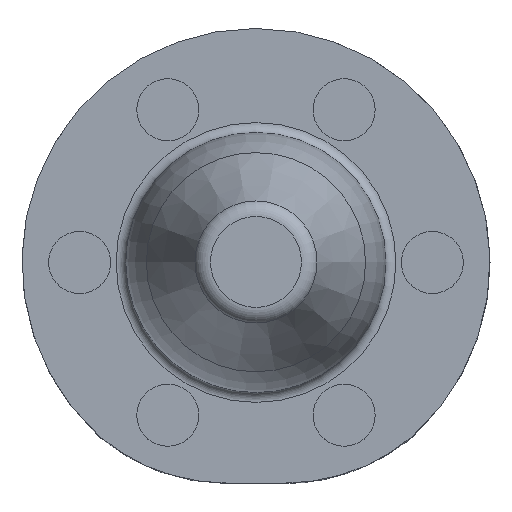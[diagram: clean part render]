
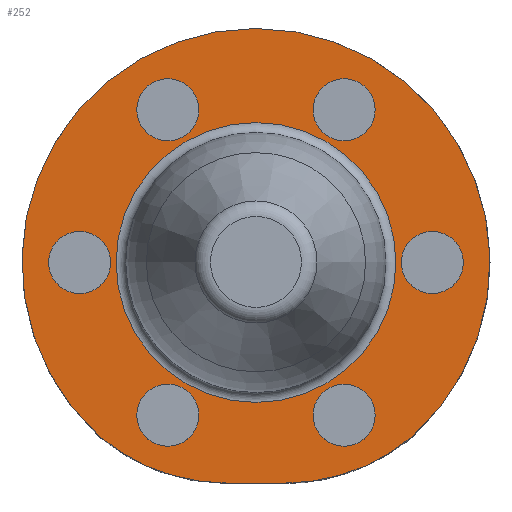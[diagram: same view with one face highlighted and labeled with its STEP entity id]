
A CAD part, top view. The second image highlights one B-rep face of the part: STEP entity #252.
In plain terms, the highlighted planar face has unit normal (0, 0, 1).
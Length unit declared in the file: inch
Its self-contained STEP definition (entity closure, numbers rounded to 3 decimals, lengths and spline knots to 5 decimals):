
#3 = EDGE_CURVE ( 'NONE', #422, #422, #642, .T. ) ;
#4 = ORIENTED_EDGE ( 'NONE', *, *, #107, .T. ) ;
#6 = AXIS2_PLACEMENT_3D ( 'NONE', #233, #23, #897 ) ;
#19 = ORIENTED_EDGE ( 'NONE', *, *, #213, .T. ) ;
#23 = DIRECTION ( 'NONE',  ( 0., 0., 1. ) ) ;
#33 = EDGE_LOOP ( 'NONE', ( #400 ) ) ;
#38 = EDGE_LOOP ( 'NONE', ( #892 ) ) ;
#45 = CARTESIAN_POINT ( 'NONE',  ( -0.23794, -0.26255, -0.015 ) ) ;
#47 = DIRECTION ( 'NONE',  ( 0.5, 0.866, 0. ) ) ;
#56 = VERTEX_POINT ( 'NONE', #194 ) ;
#73 = VERTEX_POINT ( 'NONE', #357 ) ;
#81 = AXIS2_PLACEMENT_3D ( 'NONE', #85, #449, #870 ) ;
#85 = CARTESIAN_POINT ( 'NONE',  ( -0.1335, 0.23123, -0.015 ) ) ;
#97 = FACE_BOUND ( 'NONE', #699, .T. ) ;
#101 = CIRCLE ( 'NONE', #81, 0.047 ) ;
#106 = DIRECTION ( 'NONE',  ( -1., 0., 0. ) ) ;
#107 = EDGE_CURVE ( 'NONE', #73, #73, #785, .T. ) ;
#109 = PLANE ( 'NONE',  #6 ) ;
#130 = DIRECTION ( 'NONE',  ( 0., 0., 1. ) ) ;
#136 = DIRECTION ( 'NONE',  ( 0., 0., 1. ) ) ;
#137 = DIRECTION ( 'NONE',  ( 0., 0., -1. ) ) ;
#140 = DIRECTION ( 'NONE',  ( 0.5, -0.866, 0. ) ) ;
#146 = CARTESIAN_POINT ( 'NONE',  ( -0.267, 0., -0.015 ) ) ;
#151 = AXIS2_PLACEMENT_3D ( 'NONE', #495, #130, #423 ) ;
#152 = CARTESIAN_POINT ( 'NONE',  ( 0.1335, 0.23123, -0.015 ) ) ;
#153 = CARTESIAN_POINT ( 'NONE',  ( 0.04361, -0.334, -0.015 ) ) ;
#184 = ORIENTED_EDGE ( 'NONE', *, *, #740, .F. ) ;
#191 = CIRCLE ( 'NONE', #441, 0.047 ) ;
#194 = CARTESIAN_POINT ( 'NONE',  ( 0.157, -0.19053, -0.015 ) ) ;
#196 = CARTESIAN_POINT ( 'NONE',  ( -0.04361, -0.334, -0.015 ) ) ;
#199 = VERTEX_POINT ( 'NONE', #645 ) ;
#206 = CARTESIAN_POINT ( 'NONE',  ( 0.267, 0., -0.015 ) ) ;
#213 = EDGE_CURVE ( 'NONE', #223, #322, #419, .T. ) ;
#219 = DIRECTION ( 'NONE',  ( 0., 0., 1. ) ) ;
#223 = VERTEX_POINT ( 'NONE', #153 ) ;
#226 = EDGE_CURVE ( 'NONE', #199, #199, #101, .T. ) ;
#231 = AXIS2_PLACEMENT_3D ( 'NONE', #206, #426, #843 ) ;
#233 = CARTESIAN_POINT ( 'NONE',  ( 0., 0., -0.015 ) ) ;
#252 = ADVANCED_FACE ( 'NONE', ( #754, #332, #636, #536, #761, #398, #97, #891 ), #109, .T. ) ;
#280 = VERTEX_POINT ( 'NONE', #344 ) ;
#287 = LINE ( 'NONE', #925, #750 ) ;
#296 = ORIENTED_EDGE ( 'NONE', *, *, #894, .T. ) ;
#322 = VERTEX_POINT ( 'NONE', #911 ) ;
#324 = EDGE_CURVE ( 'NONE', #56, #56, #191, .T. ) ;
#332 = FACE_BOUND ( 'NONE', #33, .T. ) ;
#333 = ORIENTED_EDGE ( 'NONE', *, *, #510, .F. ) ;
#344 = CARTESIAN_POINT ( 'NONE',  ( -0.0865, -0.23123, -0.015 ) ) ;
#345 = DIRECTION ( 'NONE',  ( 1., 0., 0. ) ) ;
#347 = CIRCLE ( 'NONE', #612, 0.047 ) ;
#357 = CARTESIAN_POINT ( 'NONE',  ( 0.21185, 0., -0.015 ) ) ;
#393 = ORIENTED_EDGE ( 'NONE', *, *, #3, .F. ) ;
#398 = FACE_BOUND ( 'NONE', #473, .T. ) ;
#399 = EDGE_CURVE ( 'NONE', #690, #608, #631, .T. ) ;
#400 = ORIENTED_EDGE ( 'NONE', *, *, #226, .F. ) ;
#416 = CARTESIAN_POINT ( 'NONE',  ( -0.2435, -0.0407, -0.015 ) ) ;
#419 = CIRCLE ( 'NONE', #590, 0.3 ) ;
#422 = VERTEX_POINT ( 'NONE', #924 ) ;
#423 = DIRECTION ( 'NONE',  ( 1., 0., 0. ) ) ;
#426 = DIRECTION ( 'NONE',  ( 0., 0., 1. ) ) ;
#438 = VERTEX_POINT ( 'NONE', #416 ) ;
#441 = AXIS2_PLACEMENT_3D ( 'NONE', #563, #136, #47 ) ;
#449 = DIRECTION ( 'NONE',  ( 0., 0., 1. ) ) ;
#458 = CIRCLE ( 'NONE', #579, 0.047 ) ;
#468 = EDGE_CURVE ( 'NONE', #649, #649, #347, .T. ) ;
#469 = EDGE_LOOP ( 'NONE', ( #333 ) ) ;
#473 = EDGE_LOOP ( 'NONE', ( #184 ) ) ;
#495 = CARTESIAN_POINT ( 'NONE',  ( -0.04361, -0.034, -0.015 ) ) ;
#510 = EDGE_CURVE ( 'NONE', #438, #438, #578, .T. ) ;
#529 = AXIS2_PLACEMENT_3D ( 'NONE', #146, #530, #140 ) ;
#530 = DIRECTION ( 'NONE',  ( 0., 0., 1. ) ) ;
#536 = FACE_BOUND ( 'NONE', #682, .T. ) ;
#555 = CARTESIAN_POINT ( 'NONE',  ( 0., 0., -0.015 ) ) ;
#563 = CARTESIAN_POINT ( 'NONE',  ( 0.1335, -0.23123, -0.015 ) ) ;
#578 = CIRCLE ( 'NONE', #529, 0.047 ) ;
#579 = AXIS2_PLACEMENT_3D ( 'NONE', #800, #219, #722 ) ;
#590 = AXIS2_PLACEMENT_3D ( 'NONE', #802, #873, #594 ) ;
#594 = DIRECTION ( 'NONE',  ( 1., 0., 0. ) ) ;
#608 = VERTEX_POINT ( 'NONE', #196 ) ;
#612 = AXIS2_PLACEMENT_3D ( 'NONE', #152, #881, #106 ) ;
#629 = CARTESIAN_POINT ( 'NONE',  ( 0., 0., -0.015 ) ) ;
#631 = CIRCLE ( 'NONE', #151, 0.3 ) ;
#636 = FACE_BOUND ( 'NONE', #38, .T. ) ;
#642 = CIRCLE ( 'NONE', #231, 0.047 ) ;
#645 = CARTESIAN_POINT ( 'NONE',  ( -0.157, 0.19053, -0.015 ) ) ;
#649 = VERTEX_POINT ( 'NONE', #720 ) ;
#656 = DIRECTION ( 'NONE',  ( 1., 0., 0. ) ) ;
#682 = EDGE_LOOP ( 'NONE', ( #393 ) ) ;
#690 = VERTEX_POINT ( 'NONE', #45 ) ;
#695 = ORIENTED_EDGE ( 'NONE', *, *, #324, .F. ) ;
#699 = EDGE_LOOP ( 'NONE', ( #4 ) ) ;
#720 = CARTESIAN_POINT ( 'NONE',  ( 0.0865, 0.23123, -0.015 ) ) ;
#721 = EDGE_CURVE ( 'NONE', #608, #223, #287, .T. ) ;
#722 = DIRECTION ( 'NONE',  ( 1., 0., 0. ) ) ;
#740 = EDGE_CURVE ( 'NONE', #280, #280, #458, .T. ) ;
#750 = VECTOR ( 'NONE', #345, 39.37008 ) ;
#754 = FACE_BOUND ( 'NONE', #469, .T. ) ;
#761 = FACE_BOUND ( 'NONE', #933, .T. ) ;
#773 = DIRECTION ( 'NONE',  ( 1., 0., 0. ) ) ;
#785 = CIRCLE ( 'NONE', #846, 0.21185 ) ;
#800 = CARTESIAN_POINT ( 'NONE',  ( -0.1335, -0.23123, -0.015 ) ) ;
#802 = CARTESIAN_POINT ( 'NONE',  ( 0.04361, -0.034, -0.015 ) ) ;
#807 = AXIS2_PLACEMENT_3D ( 'NONE', #629, #901, #773 ) ;
#809 = ORIENTED_EDGE ( 'NONE', *, *, #721, .T. ) ;
#831 = EDGE_LOOP ( 'NONE', ( #296, #864, #809, #19 ) ) ;
#843 = DIRECTION ( 'NONE',  ( -0.5, 0.866, 0. ) ) ;
#846 = AXIS2_PLACEMENT_3D ( 'NONE', #555, #137, #656 ) ;
#864 = ORIENTED_EDGE ( 'NONE', *, *, #399, .T. ) ;
#870 = DIRECTION ( 'NONE',  ( -0.5, -0.866, 0. ) ) ;
#873 = DIRECTION ( 'NONE',  ( 0., 0., 1. ) ) ;
#881 = DIRECTION ( 'NONE',  ( 0., 0., 1. ) ) ;
#887 = CIRCLE ( 'NONE', #807, 0.35433 ) ;
#891 = FACE_OUTER_BOUND ( 'NONE', #831, .T. ) ;
#892 = ORIENTED_EDGE ( 'NONE', *, *, #468, .F. ) ;
#894 = EDGE_CURVE ( 'NONE', #322, #690, #887, .T. ) ;
#897 = DIRECTION ( 'NONE',  ( 1., 0., 0. ) ) ;
#901 = DIRECTION ( 'NONE',  ( 0., 0., 1. ) ) ;
#911 = CARTESIAN_POINT ( 'NONE',  ( 0.23794, -0.26255, -0.015 ) ) ;
#924 = CARTESIAN_POINT ( 'NONE',  ( 0.2435, 0.0407, -0.015 ) ) ;
#925 = CARTESIAN_POINT ( 'NONE',  ( 0., -0.334, -0.015 ) ) ;
#933 = EDGE_LOOP ( 'NONE', ( #695 ) ) ;
